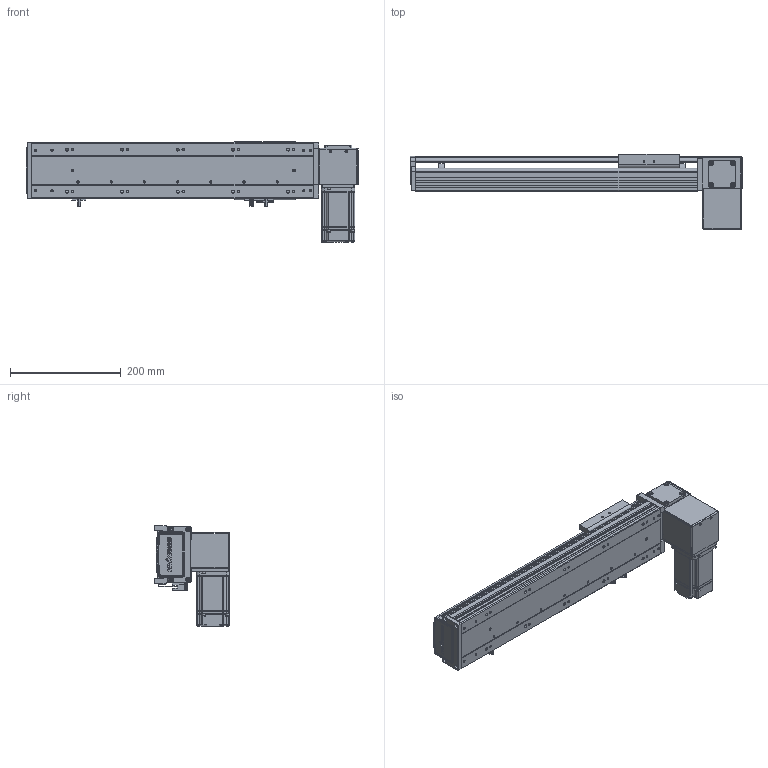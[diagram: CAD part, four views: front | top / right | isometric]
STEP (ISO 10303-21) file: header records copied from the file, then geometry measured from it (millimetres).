
FILE_DESCRIPTION (( 'STEP AP203' ), '1' );
FILE_NAME ('RY100-T-300-DL.SLDASM_300.step', '2024-04-24T01:10:18', ( '盈信电脑' ), ( '东莞市道滘镇水果街19号' ), 'SwSTEP 2.0', 'SolidWorks 2016', '' );
FILE_SCHEMA (( 'CONFIG_CONTROL_DESIGN' ));
Length unit declared in the file: millimetre
Products named in the file (16): RY100俋离覜茼え; RY100-T-300-RK倰第奻裔; RY100綴裔啣; 滅袉蝶18-10; RY100-T翋肮祭謫裔啣2; RY100-T翋肮祭謫裔啣; RY100-T左右折电机安装板; RY100-T-300-DL.SLDASM_300; RY100-T肮祭謫翋盓傅釱; 1; 覜茼ん672; RY100-T翋肮祭謫粣; RY80-T肮祭謫狟殏俋欶; RY100-T肮祭謫臏賑輸; RY100-T-300-RK倰第菁釱_300; RY100-T粣創揤踡裔
Assembly tree (18 placements, depth 2):
  RY100-T-300-DL.SLDASM_300
    RY100-T-300-RK倰第菁釱_300
    RY100-T-300-RK倰第奻裔
    RY100-T肮祭謫臏賑輸
    RY100綴裔啣
    覜茼ん672  x3
    RY100俋离覜茼え
    RY100-T翋肮祭謫粣
    RY100-T肮祭謫翋盓傅釱
    滅袉蝶18-10  x2
    RY100-T翋肮祭謫裔啣
    1
    RY100-T左右折电机安装板
    RY100-T粣創揤踡裔
    RY100-T翋肮祭謫裔啣2
    RY80-T肮祭謫狟殏俋欶
Bounding box: 600 x 135.5 x 182.5 mm (x, y, z)
Volume: 1525072.6 mm3; surface area: 588355.2 mm2
Topology: 18 solids, 18 shells, 2159 faces, 5953 edges, 3861 vertices
Faces by surface type: plane 1203, cylinder 743, cone 135, bspline 78
Entity records: 68846 total; most frequent: CARTESIAN_POINT 16404, ORIENTED_EDGE 10738, DIRECTION 10257, EDGE_CURVE 5369, VECTOR 3535, LINE 3535, VERTEX_POINT 3529, AXIS2_PLACEMENT_3D 3361
